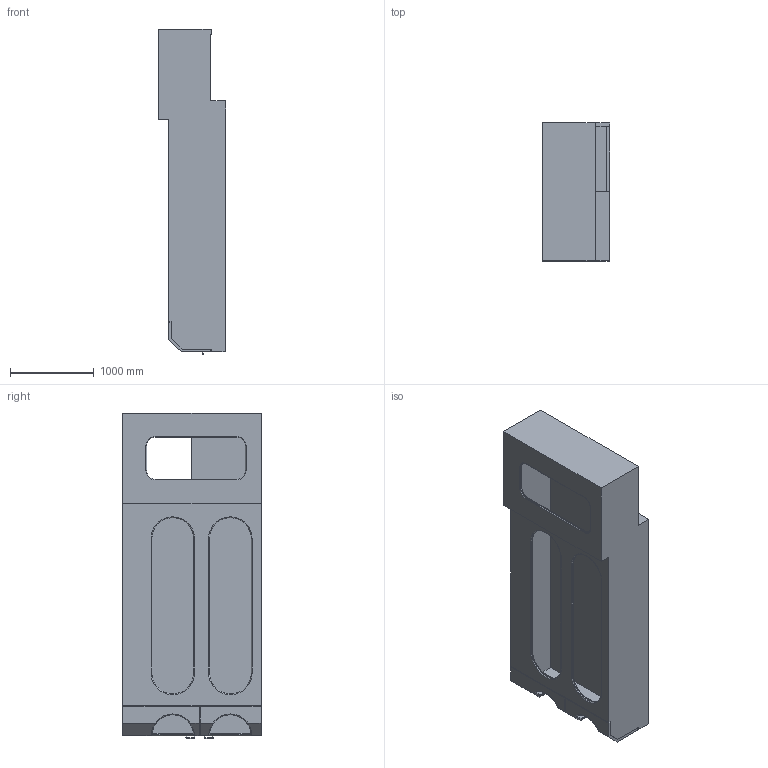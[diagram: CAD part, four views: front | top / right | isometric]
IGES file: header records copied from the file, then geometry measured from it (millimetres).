
Start section: START RECORD GO HERE.
Global section: file name: carter-magasin.igs; native system: IBM CATIA IGES - CATIA Version 5 Release 10 ; preprocessor: CATIA Version 5 Release 10 ; date: 20030711.093527; units: millimetre
Bounding box: 802.5 x 1656 x 3900.18 mm (x, y, z)
Surface area: 32824824 mm2 (no closed solid volume)
Topology: 0 solids, 0 shells, 165 faces, 898 edges, 898 vertices
Faces by surface type: revolution 80, plane 77, bspline 8
